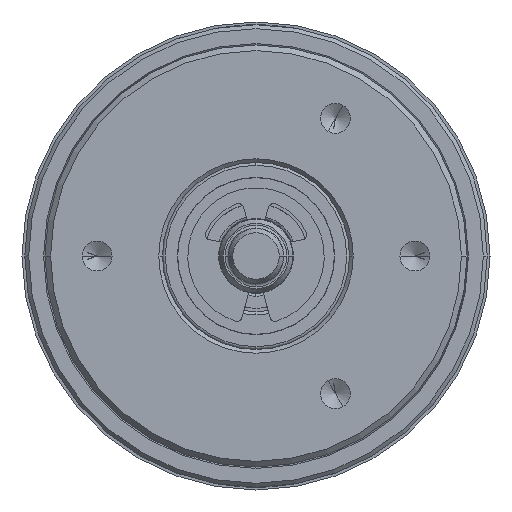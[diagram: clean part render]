
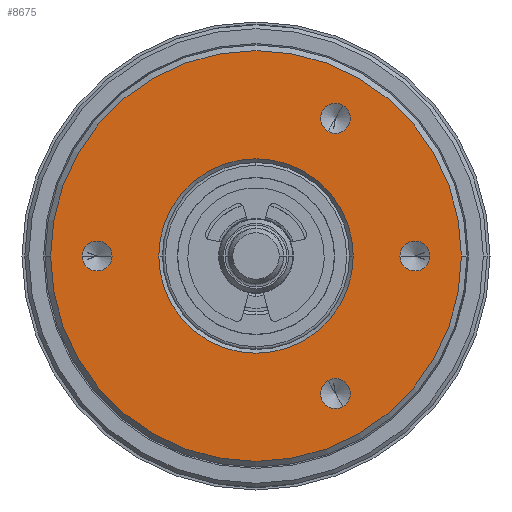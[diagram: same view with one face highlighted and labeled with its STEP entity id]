
A CAD part, left-side view. The second image highlights one B-rep face of the part: STEP entity #8675.
In plain terms, the highlighted planar face has unit normal (-1, 0, 0).
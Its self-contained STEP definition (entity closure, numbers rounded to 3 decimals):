
#321=CARTESIAN_POINT('',(0.,0.,0.));
#322=DIRECTION('',(1.,0.,0.));
#323=DIRECTION('',(0.,1.,0.));
#324=AXIS2_PLACEMENT_3D('',#321,#322,#323);
#329=CARTESIAN_POINT('',(0.,0.,0.));
#330=DIRECTION('',(-1.,0.,0.));
#331=DIRECTION('',(0.,1.,0.));
#332=AXIS2_PLACEMENT_3D('',#329,#330,#331);
#337=CARTESIAN_POINT('',(0.,8.5,0.));
#338=DIRECTION('',(-1.,0.,0.));
#339=DIRECTION('',(0.,1.,0.));
#340=AXIS2_PLACEMENT_3D('',#337,#338,#339);
#345=CARTESIAN_POINT('',(0.,8.5,0.));
#346=DIRECTION('',(-1.,0.,0.));
#347=DIRECTION('',(0.,-1.,0.));
#348=AXIS2_PLACEMENT_3D('',#345,#346,#347);
#353=CARTESIAN_POINT('',(0.,-4.25,7.361));
#354=DIRECTION('',(-1.,0.,0.));
#355=DIRECTION('',(0.,-0.5,0.866));
#356=AXIS2_PLACEMENT_3D('',#353,#354,#355);
#361=CARTESIAN_POINT('',(0.,-4.25,7.361));
#362=DIRECTION('',(-1.,0.,0.));
#363=DIRECTION('',(0.,0.5,-0.866));
#364=AXIS2_PLACEMENT_3D('',#361,#362,#363);
#369=CARTESIAN_POINT('',(0.,-8.5,0.));
#370=DIRECTION('',(-1.,0.,0.));
#371=DIRECTION('',(0.,-1.,0.));
#372=AXIS2_PLACEMENT_3D('',#369,#370,#371);
#377=CARTESIAN_POINT('',(0.,-8.5,0.));
#378=DIRECTION('',(-1.,0.,0.));
#379=DIRECTION('',(0.,1.,0.));
#380=AXIS2_PLACEMENT_3D('',#377,#378,#379);
#385=CARTESIAN_POINT('',(0.,-4.25,-7.361));
#386=DIRECTION('',(-1.,0.,0.));
#387=DIRECTION('',(0.,-0.5,-0.866));
#388=AXIS2_PLACEMENT_3D('',#385,#386,#387);
#393=CARTESIAN_POINT('',(0.,-4.25,-7.361));
#394=DIRECTION('',(-1.,0.,0.));
#395=DIRECTION('',(0.,0.5,0.866));
#396=AXIS2_PLACEMENT_3D('',#393,#394,#395);
#408=CARTESIAN_POINT('',(0.,0.,0.));
#409=DIRECTION('',(-1.,0.,0.));
#410=DIRECTION('',(0.,1.,0.));
#411=AXIS2_PLACEMENT_3D('',#408,#409,#410);
#423=CARTESIAN_POINT('',(0.,0.,0.));
#424=DIRECTION('',(1.,0.,0.));
#425=DIRECTION('',(0.,1.,0.));
#426=AXIS2_PLACEMENT_3D('',#423,#424,#425);
#7191=CARTESIAN_POINT('',(0.,5.2,0.));
#7192=CARTESIAN_POINT('',(0.,-5.2,0.));
#7193=VERTEX_POINT('',#7191);
#7194=VERTEX_POINT('',#7192);
#7195=CARTESIAN_POINT('',(0.,10.985,0.));
#7197=VERTEX_POINT('',#7195);
#7199=CARTESIAN_POINT('',(0.,-10.985,0.));
#7201=VERTEX_POINT('',#7199);
#7221=CARTESIAN_POINT('',(0.,9.3,0.));
#7222=CARTESIAN_POINT('',(0.,7.7,0.));
#7223=VERTEX_POINT('',#7221);
#7224=VERTEX_POINT('',#7222);
#7231=CARTESIAN_POINT('',(0.,-4.65,8.054));
#7232=CARTESIAN_POINT('',(0.,-3.85,6.668));
#7233=VERTEX_POINT('',#7231);
#7234=VERTEX_POINT('',#7232);
#7247=CARTESIAN_POINT('',(0.,-9.3,0.));
#7248=CARTESIAN_POINT('',(0.,-7.7,0.));
#7249=VERTEX_POINT('',#7247);
#7250=VERTEX_POINT('',#7248);
#7251=CARTESIAN_POINT('',(0.,-4.65,-8.054));
#7252=CARTESIAN_POINT('',(0.,-3.85,-6.668));
#7253=VERTEX_POINT('',#7251);
#7254=VERTEX_POINT('',#7252);
#8636=CARTESIAN_POINT('',(0.,0.,0.));
#8637=DIRECTION('',(1.,0.,0.));
#8638=DIRECTION('',(0.,-1.,0.));
#8639=AXIS2_PLACEMENT_3D('',#8636,#8637,#8638);
#8640=PLANE('',#8639);
#8642=ORIENTED_EDGE('',*,*,#8641,.F.);
#8644=ORIENTED_EDGE('',*,*,#8643,.T.);
#8645=EDGE_LOOP('',(#8642,#8644));
#8646=FACE_OUTER_BOUND('',#8645,.F.);
#8647=ORIENTED_EDGE('',*,*,#8594,.F.);
#8648=ORIENTED_EDGE('',*,*,#8629,.T.);
#8649=EDGE_LOOP('',(#8647,#8648));
#8650=FACE_BOUND('',#8649,.F.);
#8652=ORIENTED_EDGE('',*,*,#8651,.T.);
#8654=ORIENTED_EDGE('',*,*,#8653,.T.);
#8655=EDGE_LOOP('',(#8652,#8654));
#8656=FACE_BOUND('',#8655,.F.);
#8658=ORIENTED_EDGE('',*,*,#8657,.T.);
#8660=ORIENTED_EDGE('',*,*,#8659,.T.);
#8661=EDGE_LOOP('',(#8658,#8660));
#8662=FACE_BOUND('',#8661,.F.);
#8664=ORIENTED_EDGE('',*,*,#8663,.T.);
#8666=ORIENTED_EDGE('',*,*,#8665,.T.);
#8667=EDGE_LOOP('',(#8664,#8666));
#8668=FACE_BOUND('',#8667,.F.);
#8670=ORIENTED_EDGE('',*,*,#8669,.T.);
#8672=ORIENTED_EDGE('',*,*,#8671,.T.);
#8673=EDGE_LOOP('',(#8670,#8672));
#8674=FACE_BOUND('',#8673,.F.);
#8675=ADVANCED_FACE('',(#8646,#8650,#8656,#8662,#8668,#8674),#8640,.F.);
#325=CIRCLE('',#324,5.2);
#333=CIRCLE('',#332,5.2);
#341=CIRCLE('',#340,0.8);
#349=CIRCLE('',#348,0.8);
#357=CIRCLE('',#356,0.8);
#365=CIRCLE('',#364,0.8);
#373=CIRCLE('',#372,0.8);
#381=CIRCLE('',#380,0.8);
#389=CIRCLE('',#388,0.8);
#397=CIRCLE('',#396,0.8);
#412=CIRCLE('',#411,10.985);
#427=CIRCLE('',#426,10.985);
#8594=EDGE_CURVE('',#7193,#7194,#325,.T.);
#8629=EDGE_CURVE('',#7193,#7194,#333,.T.);
#8641=EDGE_CURVE('',#7197,#7201,#412,.T.);
#8643=EDGE_CURVE('',#7197,#7201,#427,.T.);
#8651=EDGE_CURVE('',#7223,#7224,#341,.T.);
#8653=EDGE_CURVE('',#7224,#7223,#349,.T.);
#8657=EDGE_CURVE('',#7233,#7234,#357,.T.);
#8659=EDGE_CURVE('',#7234,#7233,#365,.T.);
#8663=EDGE_CURVE('',#7249,#7250,#373,.T.);
#8665=EDGE_CURVE('',#7250,#7249,#381,.T.);
#8669=EDGE_CURVE('',#7253,#7254,#389,.T.);
#8671=EDGE_CURVE('',#7254,#7253,#397,.T.);
